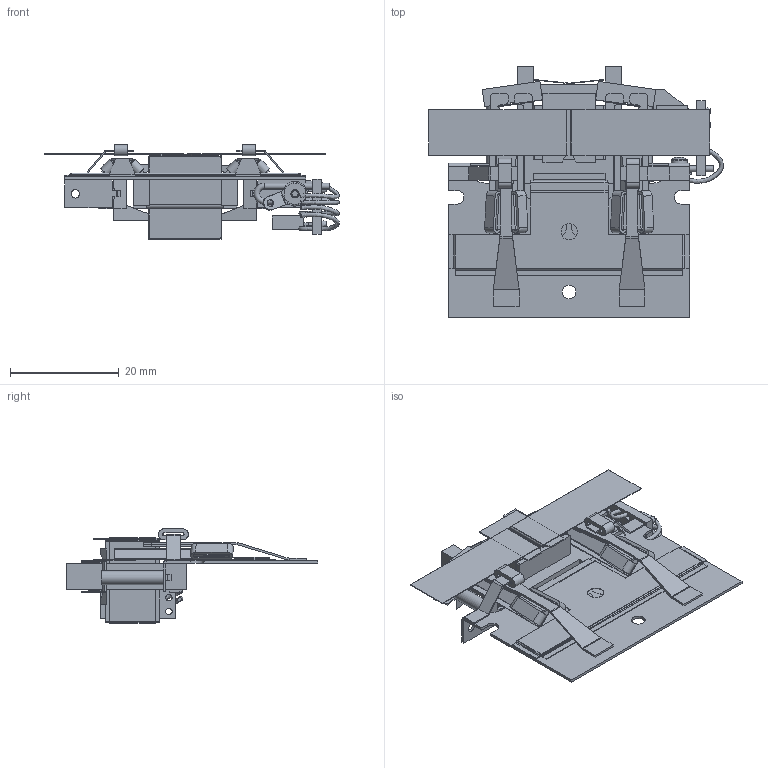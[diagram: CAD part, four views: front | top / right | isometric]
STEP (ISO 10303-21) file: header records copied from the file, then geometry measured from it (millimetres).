
FILE_DESCRIPTION (( 'STEP AP214' ), '1' );
FILE_NAME ('LS3 STD dumb.STEP', '2021-01-26T12:58:32', ( '' ), ( '' ), 'SwSTEP 2.0', 'SolidWorks 2020', '' );
FILE_SCHEMA (( 'AUTOMOTIVE_DESIGN' ));
Length unit declared in the file: inch
Products named in the file (1): LS3 STD dumb
Bounding box: 54.34 x 46.41 x 17.41 mm (x, y, z)
Volume: 4828.9 mm3; surface area: 12694.2 mm2
Topology: 29 solids, 29 shells, 825 faces, 2000 edges, 1236 vertices
Faces by surface type: plane 594, cylinder 169, cone 39, bspline 20, torus 2, sphere 1
Full cylindrical faces by diameter (mm): 1.092 x2, 1.168 x8, 1.191 x1, 1.27 x1, 1.524 x11, 1.575 x2, 1.727 x1, 1.981 x2, 2.413 x1, 2.489 x1, 2.54 x2, 2.946 x1, 3 x1, 3.175 x1, 6.35 x1
Entity records: 35569 total; most frequent: CARTESIAN_POINT 5469, ORIENTED_EDGE 3830, DIRECTION 3826, EDGE_CURVE 1915, VECTOR 1472, LINE 1472, VERTEX_POINT 1220, AXIS2_PLACEMENT_3D 1177
